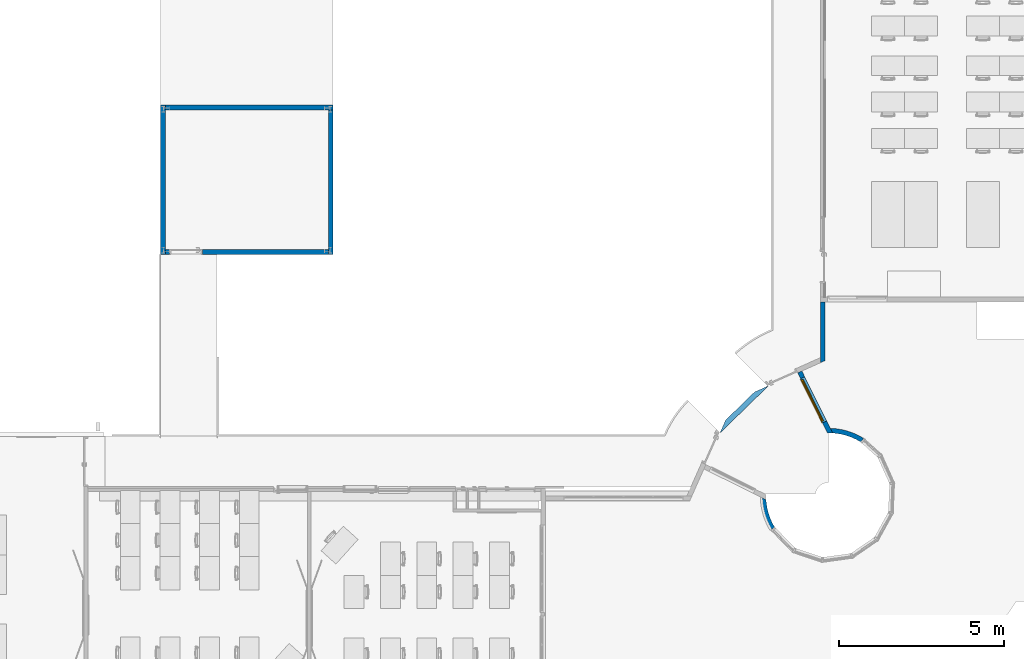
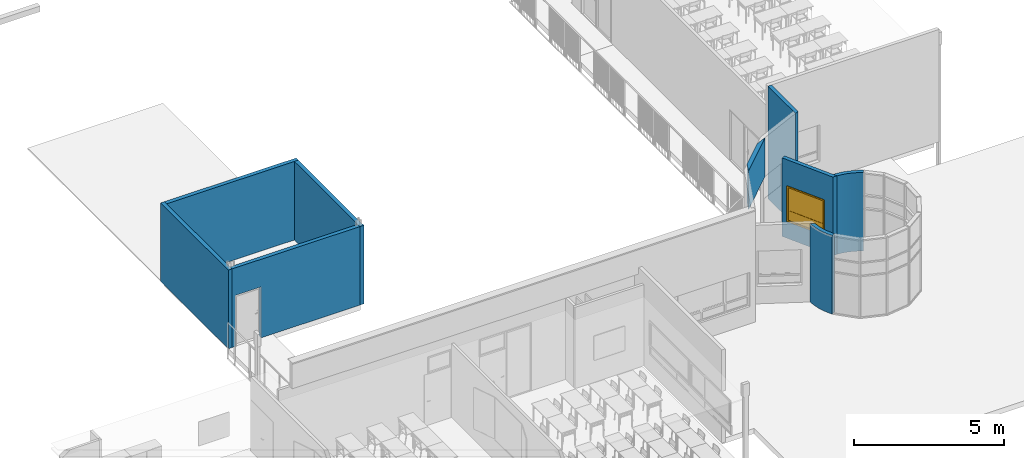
# One storey, part 22 of 44: 9 walls, 1 window, 4 openings.
"""IFC2X3 building model written with IfcOpenShell, lengths in centimetres."""

import ifcopenshell
import ifcopenshell.guid

model = None  # the IFC model being written
_history = None  # IfcOwnerHistory: only IFC2X3 demands one
_inside = {}  # id of a spatial element -> (the spatial element, [elements in it])
_under = {}  # id of a project, library or spatial element -> (it, [spatial elements below it])
_declared = {}  # id of a project -> (the project, [libraries it declares])
_typed = {}  # id of a type object -> (the type object, [elements of that type])
_made_of = {}  # id of a material, layer set ... -> (it, [elements and type objects made of it])


def new_model(schema):
    """Start an empty IFC model of exactly this schema.

    Asked for "IFC4X3", IfcOpenShell would pick the latest addendum, in which some entities
    have other attributes; the version numbers below select the first issue.
    IFC2X3 requires an IfcOwnerHistory on every rooted entity: one is made here for all.
    """
    global model, _history
    if schema == "IFC4X3":
        model = ifcopenshell.file(schema_version=(4, 3, 0, 0))
    else:
        model = ifcopenshell.file(schema=schema)
    _inside.clear()
    _under.clear()
    _declared.clear()
    _typed.clear()
    _made_of.clear()
    _history = None
    if model.schema == "IFC2X3":
        org = make("IfcOrganization", Name="unknown")
        user = make(
            "IfcPersonAndOrganization",
            ThePerson=make("IfcPerson", FamilyName="unknown"),
            TheOrganization=org,
        )
        app = make(
            "IfcApplication",
            ApplicationDeveloper=org,
            Version="unknown",
            ApplicationFullName="unknown",
            ApplicationIdentifier="unknown",
        )
        _history = make(
            "IfcOwnerHistory",
            OwningUser=user,
            OwningApplication=app,
            ChangeAction="ADDED",
            CreationDate=0,
        )
    return model


def make(cls, **values):
    """One entity of the class cls with the attributes given. An attribute that is None is left unset."""
    return model.create_entity(
        cls, **{name: value for name, value in values.items() if value is not None}
    )


def entity(cls, *values):
    """Any entity or typed value of the class cls, its attributes in the order of the schema. None: left unset."""
    e = model.create_entity(cls)
    for i, value in enumerate(values):
        if value is not None:
            e[i] = value
    return e


def rooted(cls, **values):
    """An entity with a GlobalId (a new one), such as an element, a storey or a relation."""
    return make(cls, GlobalId=ifcopenshell.guid.new(), OwnerHistory=_history, **values)


def si_unit(unit_type, name, prefix=None):
    """IfcSIUnit, for example si_unit("LENGTHUNIT", "METRE", prefix="MILLI")."""
    return make("IfcSIUnit", UnitType=unit_type, Prefix=prefix, Name=name)


def converted_unit(unit_type, name, factor, base, dimensions=None, offset=None):
    """IfcConversionBasedUnit, such as the inch: factor (a typed value) times the base unit."""
    return make(
        "IfcConversionBasedUnit"
        if offset is None
        else "IfcConversionBasedUnitWithOffset",
        ConversionOffset=offset,
        Dimensions=None
        if dimensions is None
        else entity("IfcDimensionalExponents", *dimensions),
        UnitType=unit_type,
        Name=name,
        ConversionFactor=make(
            "IfcMeasureWithUnit", ValueComponent=factor, UnitComponent=base
        ),
    )


def derived_unit(unit_type, elements):
    """IfcDerivedUnit: a product of units, each with its exponent."""
    return make(
        "IfcDerivedUnit",
        Elements=[
            make("IfcDerivedUnitElement", Unit=unit, Exponent=power)
            for unit, power in elements
        ],
        UnitType=unit_type,
    )


def assignment(units):
    """IfcUnitAssignment: the units of a project."""
    return None if units is None else make("IfcUnitAssignment", Units=units)


def point(xyz):
    """IfcCartesianPoint."""
    return None if xyz is None else make("IfcCartesianPoint", Coordinates=xyz)


def direction(xyz):
    """IfcDirection."""
    return None if xyz is None else make("IfcDirection", DirectionRatios=xyz)


def frame(location, z_axis=None, x_axis=None):
    """IfcAxis2Placement3D, a coordinate frame: its origin and axes. An axis left out is left unset."""
    return make(
        "IfcAxis2Placement3D",
        Location=point(location),
        Axis=direction(z_axis),
        RefDirection=direction(x_axis),
    )


def frame_2d(location, x_axis=None):
    """IfcAxis2Placement2D, a coordinate frame in the plane: its origin and x axis."""
    return make(
        "IfcAxis2Placement2D", Location=point(location), RefDirection=direction(x_axis)
    )


def origin():
    """The frame at (0, 0, 0) with its axes left unset."""
    return frame((0.0, 0.0, 0.0))


def origin_2d_with_axis():
    """The frame at (0, 0) in the plane with the x axis (1, 0) written out."""
    return frame_2d((0.0, 0.0), x_axis=(1.0, 0.0))


def place(relative_to, where):
    """IfcLocalPlacement: puts the frame where relative to a parent placement (None: the world)."""
    return make(
        "IfcLocalPlacement", PlacementRelTo=relative_to, RelativePlacement=where
    )


def context(
    kind, dimensions, precision=None, world=None, true_north=None, identifier=None
):
    """IfcGeometricRepresentationContext, for example the 3D "Model" context."""
    return make(
        "IfcGeometricRepresentationContext",
        ContextIdentifier=identifier,
        ContextType=kind,
        CoordinateSpaceDimension=dimensions,
        Precision=precision,
        WorldCoordinateSystem=world,
        TrueNorth=true_north,
    )


def subcontext(parent, identifier, kind, view, scale=None):
    """IfcGeometricRepresentationSubContext, for example "Body" below "Model"."""
    return make(
        "IfcGeometricRepresentationSubContext",
        ContextIdentifier=identifier,
        ContextType=kind,
        ParentContext=parent,
        TargetScale=scale,
        TargetView=view,
    )


def project(units=None, contexts=None):
    """IfcProject with its units and contexts."""
    return rooted(
        "IfcProject",
        Name="project",
        RepresentationContexts=contexts,
        UnitsInContext=assignment(units),
    )


def spatial(cls, under=None, at=None, **own):
    """A site, building, storey or space (cls), placed at a placement, below another one or the project."""
    s = rooted(cls, ObjectPlacement=at, **own)
    if under is not None:
        _under.setdefault(under.id(), (under, []))[1].append(s)
    return s


def polyline(points):
    """IfcPolyline through the points."""
    return make("IfcPolyline", Points=[point(p) for p in points])


def circle_curve(where, radius):
    """IfcCircle in the frame where."""
    return make("IfcCircle", Position=where, Radius=radius)


def parameter(value):
    """IfcParameterValue: where a trimmed curve begins or ends, as a parameter of its basis curve."""
    return model.create_entity("IfcParameterValue", value)


def trimmed(basis, trim1, trim2, sense, master):
    """IfcTrimmedCurve: the piece of a basis curve between two trims."""
    return make(
        "IfcTrimmedCurve",
        BasisCurve=basis,
        Trim1=trim1,
        Trim2=trim2,
        SenseAgreement=sense,
        MasterRepresentation=master,
    )


def segment(curve, same_sense, transition):
    """IfcCompositeCurveSegment."""
    return make(
        "IfcCompositeCurveSegment",
        Transition=transition,
        SameSense=same_sense,
        ParentCurve=curve,
    )


def composite_curve(segments, self_intersect=None):
    """IfcCompositeCurve: segments joined end to end."""
    return make("IfcCompositeCurve", Segments=segments, SelfIntersect=self_intersect)


def profile(cls, at=None, kind="AREA", **sizes):
    """A parametric profile (cls). Its sizes go by their IFC names, for example OverallWidth=200.0."""
    return make(cls, ProfileType=kind, Position=at, **sizes)


def rectangle(**sizes):
    """IfcRectangleProfileDef."""
    return profile("IfcRectangleProfileDef", **sizes)


def outline(outer, holes=None, kind="AREA"):
    """IfcArbitraryClosedProfileDef: a profile drawn as a closed curve; with holes, ...WithVoids."""
    if holes is None:
        return make("IfcArbitraryClosedProfileDef", ProfileType=kind, OuterCurve=outer)
    return make(
        "IfcArbitraryProfileDefWithVoids",
        ProfileType=kind,
        OuterCurve=outer,
        InnerCurves=holes,
    )


def extrude(swept, where, along, depth):
    """IfcExtrudedAreaSolid: the profile swept, set in the frame where, extruded along a direction by depth."""
    return make(
        "IfcExtrudedAreaSolid",
        SweptArea=swept,
        Position=where,
        ExtrudedDirection=direction(along),
        Depth=depth,
    )


def shape(context_of_items, identifier, shape_type, items):
    """IfcShapeRepresentation: the items that make up one representation, for example the "Body"."""
    return make(
        "IfcShapeRepresentation",
        ContextOfItems=context_of_items,
        RepresentationIdentifier=identifier,
        RepresentationType=shape_type,
        Items=items,
    )


def source(mapping_origin, context_of_items, identifier, shape_type, items):
    """IfcRepresentationMap: a shape defined once, which mapped items show again and again."""
    return make(
        "IfcRepresentationMap",
        MappingOrigin=mapping_origin,
        MappedRepresentation=shape(context_of_items, identifier, shape_type, items),
    )


def transform(
    local_origin,
    x_axis=None,
    y_axis=None,
    z_axis=None,
    scale=None,
    scale2=None,
    scale3=None,
    uniform=True,
):
    """IfcCartesianTransformationOperator3D, or its non-uniform kind. x_axis, y_axis, z_axis: its Axis1, 2, 3."""
    if uniform:
        return make(
            "IfcCartesianTransformationOperator3D",
            Axis1=direction(x_axis),
            Axis2=direction(y_axis),
            LocalOrigin=point(local_origin),
            Scale=scale,
            Axis3=direction(z_axis),
        )
    return make(
        "IfcCartesianTransformationOperator3DnonUniform",
        Axis1=direction(x_axis),
        Axis2=direction(y_axis),
        LocalOrigin=point(local_origin),
        Scale=scale,
        Axis3=direction(z_axis),
        Scale2=scale2,
        Scale3=scale3,
    )


def mapped(mapping_source, mapping_target):
    """IfcMappedItem: shows the shape of a source again, moved by a transform."""
    return make(
        "IfcMappedItem", MappingSource=mapping_source, MappingTarget=mapping_target
    )


def material(Name=None, Category=None):
    """IfcMaterial."""
    return make("IfcMaterial", Name=Name, Category=Category)


def layer(
    of_material, thickness, ventilated=None, Name=None, Category=None, Priority=None
):
    """IfcMaterialLayer: one layer of a wall or slab, of a material (None: an air gap)."""
    return make(
        "IfcMaterialLayer",
        Material=of_material,
        LayerThickness=thickness,
        IsVentilated=ventilated,
        Name=Name,
        Category=Category,
        Priority=Priority,
    )


def layer_set(layers, Name=None):
    """IfcMaterialLayerSet."""
    return make("IfcMaterialLayerSet", MaterialLayers=layers, LayerSetName=Name)


def layer_usage(for_layer_set, set_direction, sense, offset, extent=None):
    """IfcMaterialLayerSetUsage: how a layer set lies in its element."""
    return make(
        "IfcMaterialLayerSetUsage",
        ForLayerSet=for_layer_set,
        LayerSetDirection=set_direction,
        DirectionSense=sense,
        OffsetFromReferenceLine=offset,
        ReferenceExtent=extent,
    )


def made_of(thing, what):
    """Note that an element or type object is made of a material, layer set ...; save() writes the relation."""
    if what is not None:
        _made_of.setdefault(what.id(), (what, []))[1].append(thing)
    return thing


def type_object(cls, material=None, **own):
    """A type object (cls), such as IfcWallType, which elements share."""
    return made_of(rooted(cls, **own), material)


def type_shapes(of_type, sources):
    """Give a type object the sources (RepresentationMaps) that its elements show as mapped items."""
    of_type.RepresentationMaps = sources


def element(
    cls,
    number,
    at=None,
    inside=None,
    cuts=None,
    type_object=None,
    material=None,
    context=None,
    identifier="Body",
    shape_type=None,
    held_by="IfcProductDefinitionShape",
    body=None,
    shapes=None,
    **own,
):
    """One element of the class cls, such as IfcWall. Its Tag is "e" and its number.

    at: its placement. inside: the storey or other place that contains it. cuts: it is an
    opening in that element (IfcRelVoidsElement). A single representation is given by context,
    identifier, shape_type and body (its items); several are given by shapes. held_by: the class
    of the entity that holds the representations. save() writes the other relations.
    """
    e = rooted(cls, Tag="e%d" % number, ObjectPlacement=at, **own)
    if body is not None:
        shapes = [shape(context, identifier, shape_type, body)]
    if shapes is not None:
        e.Representation = make(held_by, Representations=shapes)
    if inside is not None:
        _inside.setdefault(inside.id(), (inside, []))[1].append(e)
    if cuts is not None:
        rooted(
            "IfcRelVoidsElement", RelatingBuildingElement=cuts, RelatedOpeningElement=e
        )
    if type_object is not None:
        _typed.setdefault(type_object.id(), (type_object, []))[1].append(e)
    return made_of(e, material)


def fill(opening, filler):
    """IfcRelFillsElement: the door or window that sits in an opening."""
    return rooted(
        "IfcRelFillsElement",
        RelatingOpeningElement=opening,
        RelatedBuildingElement=filler,
    )


def aggregate(whole, parts):
    """IfcRelAggregates: a whole, such as a stair, and the parts it consists of."""
    return rooted("IfcRelAggregates", RelatingObject=whole, RelatedObjects=parts)


def save(model, path):
    """Write the relations noted so far, then the file.

    IfcRelAggregates (storeys below a building ...), IfcRelContainedInSpatialStructure (elements
    in a storey), IfcRelDefinesByType, IfcRelAssociatesMaterial and IfcRelDeclares: one each for
    every whole, place, type object, material and project.
    """
    for whole, parts in _under.values():
        aggregate(whole, parts)
    for where, things in _inside.values():
        rooted(
            "IfcRelContainedInSpatialStructure",
            RelatedElements=things,
            RelatingStructure=where,
        )
    for kind, things in _typed.values():
        rooted("IfcRelDefinesByType", RelatedObjects=things, RelatingType=kind)
    for what, things in _made_of.values():
        rooted("IfcRelAssociatesMaterial", RelatedObjects=things, RelatingMaterial=what)
    for by, libraries in _declared.values():
        rooted("IfcRelDeclares", RelatingContext=by, RelatedDefinitions=libraries)
    model.write(path)


model = new_model("IFC2X3")

# Units and contexts
model_context = context("Model", 3, precision=0.001, world=origin(), true_north=direction((6.12303176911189e-17, 1.0)))
body_context = subcontext(model_context, "Body", "Model", "MODEL_VIEW")
ifc_project = project(units=[si_unit("LENGTHUNIT", "METRE", prefix="CENTI"), si_unit("AREAUNIT", "SQUARE_METRE"), si_unit("VOLUMEUNIT", "CUBIC_METRE"), converted_unit("PLANEANGLEUNIT", "DEGREE", entity("IfcRatioMeasure", 0.0174532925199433), si_unit("PLANEANGLEUNIT", "RADIAN"), dimensions=[0, 0, 0, 0, 0, 0, 0]), si_unit("MASSUNIT", "GRAM", prefix="KILO"), si_unit("TIMEUNIT", "SECOND"), si_unit("FREQUENCYUNIT", "HERTZ"), si_unit("THERMODYNAMICTEMPERATUREUNIT", "DEGREE_CELSIUS"), derived_unit("THERMALTRANSMITTANCEUNIT", [(si_unit("MASSUNIT", "GRAM", prefix="KILO"), 1), (si_unit("THERMODYNAMICTEMPERATUREUNIT", "KELVIN"), -1), (si_unit("TIMEUNIT", "SECOND"), -3)]), derived_unit("VOLUMETRICFLOWRATEUNIT", [(si_unit("LENGTHUNIT", "METRE"), 3), (si_unit("TIMEUNIT", "SECOND"), -1)]), si_unit("ELECTRICCURRENTUNIT", "AMPERE"), si_unit("ELECTRICVOLTAGEUNIT", "VOLT"), si_unit("POWERUNIT", "WATT"), si_unit("FORCEUNIT", "NEWTON", prefix="KILO"), si_unit("ILLUMINANCEUNIT", "LUX"), si_unit("LUMINOUSFLUXUNIT", "LUMEN"), si_unit("LUMINOUSINTENSITYUNIT", "CANDELA"), derived_unit("USERDEFINED", [(si_unit("MASSUNIT", "GRAM", prefix="KILO"), -1), (si_unit("LENGTHUNIT", "METRE"), -2), (si_unit("TIMEUNIT", "SECOND"), 3), (si_unit("LUMINOUSFLUXUNIT", "LUMEN"), 1)]), derived_unit("LINEARVELOCITYUNIT", [(si_unit("LENGTHUNIT", "METRE"), 1), (si_unit("TIMEUNIT", "SECOND"), -1)]), si_unit("PRESSUREUNIT", "PASCAL"), derived_unit("USERDEFINED", [(si_unit("LENGTHUNIT", "METRE"), -2), (si_unit("MASSUNIT", "GRAM", prefix="KILO"), 1), (si_unit("TIMEUNIT", "SECOND"), -2)])], contexts=[model_context])

# Site, building, storey
site_placement = place(None, frame((8.62739174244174, -249.285249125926, 0.0)))
site = spatial("IfcSite", under=ifc_project, at=site_placement, Name="Default", CompositionType="ELEMENT")
building_placement = place(site_placement, origin())
building = spatial("IfcBuilding", under=site, at=building_placement, CompositionType="ELEMENT")
storey_placement = place(building_placement, frame((0.0, 0.0, 343.0)))
storey = spatial("IfcBuildingStorey", under=building, at=storey_placement, Name="R+1", CompositionType="ELEMENT", Elevation=343.0)

# Wall
ifc_material_1 = material(Name="Tôle/Doublage")
ifc_layer_1 = layer(ifc_material_1, 4.0)
ifc_material_2 = material(Name="Laine minérale")
ifc_layer_2 = layer(ifc_material_2, 8.0)
ifc_material_3 = material(Name="Plâtre")
ifc_layer_3 = layer(ifc_material_3, 2.0)
ifc_layer_set_1 = layer_set([ifc_layer_1, ifc_layer_2, ifc_layer_3], Name="Mur de base:MET 4 + ISO 8 + PLA 2")
ifc_layer_usage_1 = layer_usage(ifc_layer_set_1, "AXIS2", "NEGATIVE", 7.0)
wall_type_1 = type_object("IfcWallType", Name="Mur de base:MET 4 + ISO 8 + PLA 2", PredefinedType="STANDARD", material=ifc_layer_set_1)
wall_1_placement = place(storey_placement, frame((3026.98509457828, 1338.97981360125, 0.0), z_axis=(0.0, 0.0, 1.0), x_axis=(0.0, -1.0, 0.0)))
element("IfcWallStandardCase", 1, at=wall_1_placement, inside=storey, type_object=wall_type_1, material=ifc_layer_usage_1, Name="Mur de base:MET 4 + ISO 8 + PLA 2", ObjectType="Mur de base:MET 4 + ISO 8 + PLA 2", context=body_context, shape_type="SweptSolid", body=[
    extrude(outline(polyline([(184.032933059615, -7.0), (177.799731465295, 7.0), (0.0, 7.0), (0.0, -7.0), (184.032933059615, -7.0)])), origin(), (0.0, 0.0, 1.0), 458.0),
])

# Wall, openings, window
ifc_layer_usage_2 = layer_usage(ifc_layer_set_1, "AXIS2", "NEGATIVE", 7.0)
wall_2_placement = place(storey_placement, frame((2957.12128897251, 1127.28771713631, 0.0), z_axis=(0.0, 0.0, 1.0), x_axis=(0.445656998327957, -0.895203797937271, 0.0)))
wall_2 = element("IfcWallStandardCase", 2, at=wall_2_placement, inside=storey, type_object=wall_type_1, material=ifc_layer_usage_2, Name="Mur de base:MET 4 + ISO 8 + PLA 2", ObjectType="Mur de base:MET 4 + ISO 8 + PLA 2", context=body_context, shape_type="SweptSolid", body=[
    extrude(outline(composite_curve([segment(trimmed(circle_curve(frame_2d((373.127102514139, -88.9739028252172), x_axis=(0.445656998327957, 0.895203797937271)), 188.999999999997), [parameter(85.9480859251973)], [parameter(90.7612307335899)], True, "PARAMETER"), False, "CONTINUOUS"), segment(polyline([(210.308154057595, 7.0), (194.247226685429, 7.0)]), True, "CONTINUOUS"), segment(polyline([(194.247226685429, 7.0), (0.602778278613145, 7.0)]), True, "CONTINUOUS"), segment(polyline([(0.602778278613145, 7.0), (0.0, -7.0)]), True, "CONTINUOUS"), segment(polyline([(0.0, -7.0), (202.829482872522, -7.0)]), True, "CONTINUOUS")], self_intersect=False)), origin(), (0.0, 0.0, 1.0), 320.0),
])
opening_1_placement = place(wall_2_placement, origin())
element("IfcOpeningElement", 3, at=opening_1_placement, cuts=wall_2, Name="Mur de base:MET 4 + ISO 8 + PLA 2", ObjectType="Opening", context=body_context, shape_type="SweptSolid", body=[
    extrude(rectangle(XDim=206.999999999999, YDim=10.0000000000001, at=frame_2d((2.96651592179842e-13, 4.9737991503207e-14), x_axis=(0.0, 1.0))), frame((-13.2548760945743, -105.629186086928, 103.499999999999), z_axis=(0.0430157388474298, 0.99907439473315, 0.0), x_axis=(-0.99907439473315, 0.0430157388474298, 0.0)), (0.0, 0.0, 1.0), 98.9999999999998),
])
opening_2_placement = place(wall_2_placement, frame((19.4856280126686, -7.0, 70.0)))
opening_2 = element("IfcOpeningElement", 4, at=opening_2_placement, cuts=wall_2, Name="S_150x115_A_40:S_150x115_A_40:1", ObjectType="Opening", context=body_context, shape_type="SweptSolid", body=[
    extrude(rectangle(XDim=144.5, YDim=150.0, at=frame_2d((72.25, 75.0), x_axis=(1.0, 0.0))), frame((0.0, 0.0, 0.0), z_axis=(0.0, 1.0, 0.0), x_axis=(0.0, 0.0, 1.0)), (0.0, 0.0, 1.0), 14.0),
])
ifc_material_4 = material(Name="Verre")
window_style = type_object("IfcWindowStyle", Name="S_150x115_A_40", ConstructionType="NOTDEFINED", OperationType="NOTDEFINED", ParameterTakesPrecedence=False, Sizeable=False, material=ifc_material_4)
shared_shape = source(origin(), body_context, "Body", "SweptSolid", [
    extrude(rectangle(XDim=140.0, YDim=2.0, at=frame_2d((0.0, 4.44089209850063e-16), x_axis=(1.0, 0.0))), frame((75.0, 2.0, 5.0)), (0.0, 0.0, 1.0), 29.9999999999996),
    extrude(rectangle(XDim=132.0, YDim=2.0, at=frame_2d((0.0, 4.44089209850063e-16), x_axis=(1.0, 0.0))), frame((75.0, 2.0, 45.0)), (0.0, 0.0, 1.0), 90.4999999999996),
    extrude(outline(polyline([(-75.0, -72.2500000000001), (75.0, -72.2500000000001), (75.0, 72.2500000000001), (-75.0, 72.2500000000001), (-75.0, -72.2500000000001)]), holes=[polyline([(-70.0, 67.2500000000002), (70.0, 67.2500000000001), (70.0, -67.2500000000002), (-70.0, -67.2500000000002), (-70.0, 67.2500000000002)])]), frame((75.0, 0.0, 72.2499999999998), z_axis=(0.0, -1.0, 0.0), x_axis=(-1.0, 0.0, 0.0)), (0.0, 0.0, 1.0), 1.99999999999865),
    extrude(outline(polyline([(-70.0, -49.2500000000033), (70.0, -49.2500000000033), (70.0, 49.2500000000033), (-70.0, 49.2500000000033), (-70.0, -49.2500000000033)]), holes=[polyline([(-66.0, 45.2499999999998), (66.0, 45.2499999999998), (66.0, -45.2499999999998), (-66.0, -45.2499999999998), (-66.0, 45.2499999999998)])]), frame((75.0, 4.0, 90.25), z_axis=(0.0, -1.0, 0.0), x_axis=(1.0, 0.0, 0.0)), (0.0, 0.0, 1.0), 4.0),
    extrude(rectangle(XDim=140.0, YDim=6.0, at=origin_2d_with_axis()), frame((75.0, 3.0, 35.0)), (0.0, 0.0, 1.0), 5.99999999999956),
])
type_shapes(window_style, [shared_shape])
window_placement = place(opening_2_placement, origin())
window = element("IfcWindow", 5, at=window_placement, inside=storey, type_object=window_style, material=ifc_material_4, Name="S_150x115_A_40:S_150x115_A_40", ObjectType="S_150x115_A_40", OverallHeight=144.5, OverallWidth=150.0, context=body_context, shape_type="MappedRepresentation", body=[
    mapped(shared_shape, transform((0.0, 0.0, 0.0), scale=1.0)),
])
fill(opening_2, window)

# Walls
ifc_layer_usage_3 = layer_usage(ifc_layer_set_1, "AXIS2", "POSITIVE", -7.0)
wall_3_placement = place(storey_placement, frame((3049.74165726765, 949.51972362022, 0.0)))
element("IfcWallStandardCase", 6, at=wall_3_placement, inside=storey, type_object=wall_type_1, material=ifc_layer_usage_3, Name="Mur de base:MET 4 + ISO 8 + PLA 2", ObjectType="Mur de base:MET 4 + ISO 8 + PLA 2", context=body_context, shape_type="SweptSolid", body=[
    extrude(outline(composite_curve([segment(trimmed(circle_curve(frame_2d((-5.98343952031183, -195.90864823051), x_axis=(1.0, 0.0)), 202.999999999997), [parameter(58.4990158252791)], [parameter(88.2506168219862)], True, "PARAMETER"), True, "CONTINUOUS"), segment(polyline([(0.213694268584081, 6.99673743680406), (7.37135895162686, -7.38106574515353)]), True, "CONTINUOUS"), segment(trimmed(circle_curve(frame_2d((-5.98343952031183, -195.90864823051), x_axis=(1.0, 0.0)), 188.999999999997), [parameter(58.4990158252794)], [parameter(85.9480859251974)], True, "PARAMETER"), False, "CONTINUOUS"), segment(polyline([(92.7715572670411, -34.761353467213), (100.086742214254, -22.8245168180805)]), True, "CONTINUOUS")], self_intersect=False)), origin(), (0.0, 0.0, 1.0), 319.999999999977),
])
ifc_layer_usage_4 = layer_usage(ifc_layer_set_1, "AXIS2", "POSITIVE", -7.0)
wall_4_placement = place(storey_placement, frame((2875.54211925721, 653.016124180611, 0.0)))
element("IfcWallStandardCase", 7, at=wall_4_placement, inside=storey, type_object=wall_type_1, material=ifc_layer_usage_4, Name="Mur de base:MET 4 + ISO 8 + PLA 2", ObjectType="Mur de base:MET 4 + ISO 8 + PLA 2", context=body_context, shape_type="SweptSolid", body=[
    extrude(outline(composite_curve([segment(polyline([(-6.00771780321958, -3.59267682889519), (6.00771780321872, 3.59267682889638)]), True, "CONTINUOUS"), segment(trimmed(circle_curve(frame_2d((168.216098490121, 100.594951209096), x_axis=(1.0, 0.0)), 188.999999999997), [parameter(184.051914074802)], [parameter(210.879856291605)], True, "PARAMETER"), False, "CONTINUOUS"), segment(polyline([(-20.3114839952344, 87.2401527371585), (-34.6892871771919, 94.3978174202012)]), True, "CONTINUOUS"), segment(trimmed(circle_curve(frame_2d((168.216098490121, 100.594951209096), x_axis=(1.0, 0.0)), 202.999999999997), [parameter(181.749383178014)], [parameter(210.879856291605)], True, "PARAMETER"), True, "CONTINUOUS")], self_intersect=False)), origin(), (0.0, 0.0, 1.0), 320.000000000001),
])
ifc_layer_4 = layer(ifc_material_1, 4.0)
ifc_layer_5 = layer(ifc_material_2, 8.0)
ifc_layer_6 = layer(ifc_material_1, 4.0)
ifc_layer_set_2 = layer_set([ifc_layer_4, ifc_layer_5, ifc_layer_6], Name="Mur de base:MET 4 + ISO 8 + MET 4")
ifc_layer_usage_5 = layer_usage(ifc_layer_set_2, "AXIS2", "NEGATIVE", 8.0)
wall_type_2 = type_object("IfcWallType", Name="Mur de base:MET 4 + ISO 8 + MET 4", PredefinedType="STANDARD", material=ifc_layer_set_2)
wall_5_placement = place(storey_placement, frame((2710.16360587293, 947.805551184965, 300.0), z_axis=(0.0, 0.0, 1.0), x_axis=(0.716685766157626, 0.69739623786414, 0.0)))
element("IfcWallStandardCase", 8, at=wall_5_placement, inside=storey, type_object=wall_type_2, material=ifc_layer_usage_5, Name="Mur de base:MET 4 + ISO 8 + MET 4", ObjectType="Mur de base:MET 4 + ISO 8 + MET 4", context=body_context, shape_type="SweptSolid", body=[
    extrude(outline(polyline([(204.641658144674, -8.0), (193.651387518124, -3.95234366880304), (161.198165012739, 8.0), (40.0402933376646, 8.0), (23.1407378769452, 1.2469803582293), (0.0, -8.0), (204.641658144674, -8.0)])), origin(), (0.0, 0.0, 1.0), 158.0),
])
ifc_layer_7 = layer(ifc_material_1, 4.0)
ifc_layer_8 = layer(ifc_material_2, 9.5)
ifc_layer_9 = layer(ifc_material_1, 1.25)
ifc_layer_set_3 = layer_set([ifc_layer_7, ifc_layer_8, ifc_layer_9], Name="Mur de base:MET 4 + ISO 10 + MET 1")
ifc_layer_usage_6 = layer_usage(ifc_layer_set_3, "AXIS2", "NEGATIVE", 7.375)
wall_type_3 = type_object("IfcWallType", Name="Mur de base:MET 4 + ISO 10 + MET 1", PredefinedType="STANDARD", material=ifc_layer_set_3)
wall_6_placement = place(storey_placement, frame((1031.27982780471, 1482.48020806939, 0.0), z_axis=(0.0, 0.0, 1.0), x_axis=(0.0, 1.0, 0.0)))
element("IfcWallStandardCase", 9, at=wall_6_placement, inside=storey, type_object=wall_type_3, material=ifc_layer_usage_6, Name="Mur de base:MET 4 + ISO 10 + MET 1", ObjectType="Mur de base:MET 4 + ISO 10 + MET 1", context=body_context, shape_type="SweptSolid", body=[
    extrude(rectangle(XDim=452.0, YDim=14.7500000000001, at=frame_2d((226.0, 1.19904086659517e-14), x_axis=(-1.0, 0.0))), origin(), (0.0, 0.0, 1.0), 320.0),
])
ifc_layer_usage_7 = layer_usage(ifc_layer_set_3, "AXIS2", "NEGATIVE", 7.375)
wall_7_placement = place(storey_placement, frame((1038.65482780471, 1927.10520806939, 0.0)))
element("IfcWallStandardCase", 10, at=wall_7_placement, inside=storey, type_object=wall_type_3, material=ifc_layer_usage_7, Name="Mur de base:MET 4 + ISO 10 + MET 1", ObjectType="Mur de base:MET 4 + ISO 10 + MET 1", context=body_context, shape_type="SweptSolid", body=[
    extrude(rectangle(XDim=507.249999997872, YDim=14.7500000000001, at=frame_2d((253.624999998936, -2.44249065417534e-14), x_axis=(-1.0, 0.0))), origin(), (0.0, 0.0, 1.0), 320.0),
])

# Wall, opening
ifc_layer_usage_8 = layer_usage(ifc_layer_set_3, "AXIS2", "NEGATIVE", 7.375)
wall_8_placement = place(storey_placement, frame((1538.52982780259, 1919.73020806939, 0.0), z_axis=(0.0, 0.0, 1.0), x_axis=(0.0, -1.0, 0.0)))
wall_8 = element("IfcWallStandardCase", 11, at=wall_8_placement, inside=storey, type_object=wall_type_3, material=ifc_layer_usage_8, Name="Mur de base:MET 4 + ISO 10 + MET 1", ObjectType="Mur de base:MET 4 + ISO 10 + MET 1", context=body_context, shape_type="SweptSolid", body=[
    extrude(rectangle(XDim=437.25, YDim=14.7500000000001, at=frame_2d((218.625, -2.66453525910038e-15), x_axis=(-1.0, 0.0))), origin(), (0.0, 0.0, 1.0), 320.0),
])
opening_3_placement = place(wall_8_placement, origin())
element("IfcOpeningElement", 12, at=opening_3_placement, cuts=wall_8, Name="Mur de base:MET 4 + ISO 10 + MET 1", ObjectType="Opening", context=body_context, shape_type="SweptSolid", body=[
    extrude(rectangle(XDim=20.0000000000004, YDim=19.9999999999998, at=frame_2d((1.08357767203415e-13, 2.66453525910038e-14), x_axis=(0.0, 1.0))), frame((242.499999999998, -159.775, 86.6752266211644), z_axis=(0.0, 1.0, 0.0), x_axis=(1.0, 0.0, 0.0)), (0.0, 0.0, 1.0), 304.8),
])

ifc_layer_usage_9 = layer_usage(ifc_layer_set_3, "AXIS2", "NEGATIVE", 7.375)
wall_9_placement = place(storey_placement, frame((1531.15482780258, 1489.85520806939, 0.0), z_axis=(0.0, 0.0, 1.0), x_axis=(-1.0, 0.0, 0.0)))
wall_9 = element("IfcWallStandardCase", 13, at=wall_9_placement, inside=storey, type_object=wall_type_3, material=ifc_layer_usage_9, Name="Mur de base:MET 4 + ISO 10 + MET 1", ObjectType="Mur de base:MET 4 + ISO 10 + MET 1", context=body_context, shape_type="SweptSolid", body=[
    extrude(rectangle(XDim=492.499999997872, YDim=14.7500000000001, at=frame_2d((246.249999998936, -4.9293902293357e-14), x_axis=(-1.0, 0.0))), origin(), (0.0, 0.0, 1.0), 320.0),
])
opening_4_placement = place(wall_9_placement, frame((480.449999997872, 7.37499999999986, 0.0)))
element("IfcOpeningElement", 14, at=opening_4_placement, cuts=wall_9, Name="Simple(R)_bois_mu:93 x 204 cm:1", ObjectType="Opening", context=body_context, shape_type="SweptSolid", body=[
    extrude(rectangle(XDim=207.499999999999, YDim=99.9999999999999, at=frame_2d((103.749999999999, 50.0), x_axis=(1.0, 0.0))), frame((0.0, 0.0, 0.0), z_axis=(0.0, -1.0, 0.0), x_axis=(0.0, 0.0, 1.0)), (0.0, 0.0, 1.0), 14.75),
])

save(model, "model.ifc")
